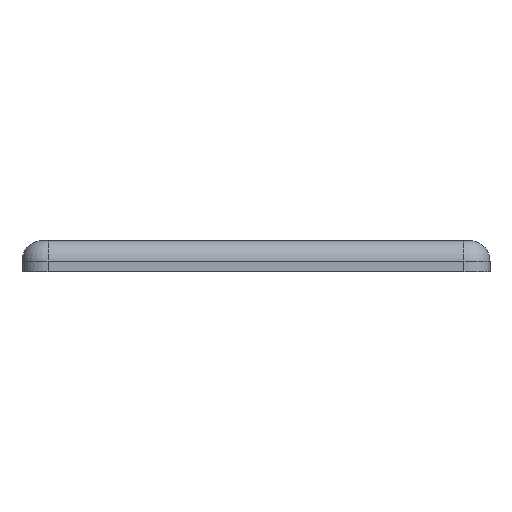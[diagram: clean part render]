
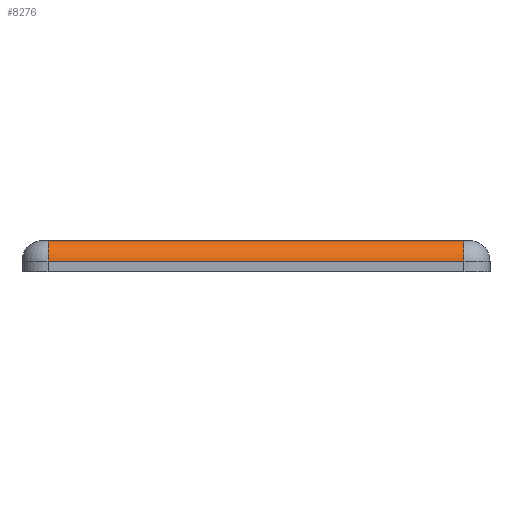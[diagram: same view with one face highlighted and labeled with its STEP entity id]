
A CAD part, front view. The second image highlights one B-rep face of the part: STEP entity #8276.
In plain terms, the highlighted cylindrical face has radius 2 mm (diameter 4 mm), a partial arc.
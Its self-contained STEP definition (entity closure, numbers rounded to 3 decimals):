
#227 = VERTEX_POINT ( 'NONE', #9363 ) ;
#432 = DIRECTION ( 'NONE',  ( 1., 0., 0. ) ) ;
#745 = EDGE_CURVE ( 'NONE', #9428, #1688, #9780, .T. ) ;
#853 = DIRECTION ( 'NONE',  ( -1., 0., 0. ) ) ;
#1024 = CIRCLE ( 'NONE', #1860, 2. ) ;
#1164 = CIRCLE ( 'NONE', #6141, 2. ) ;
#1284 = CYLINDRICAL_SURFACE ( 'NONE', #8115, 2. ) ;
#1617 = DIRECTION ( 'NONE',  ( 0., 1., 0. ) ) ;
#1688 = VERTEX_POINT ( 'NONE', #10228 ) ;
#1860 = AXIS2_PLACEMENT_3D ( 'NONE', #9345, #5387, #10013 ) ;
#1953 = ORIENTED_EDGE ( 'NONE', *, *, #9054, .T. ) ;
#2666 = VERTEX_POINT ( 'NONE', #9537 ) ;
#2995 = ORIENTED_EDGE ( 'NONE', *, *, #6034, .F. ) ;
#4780 = CARTESIAN_POINT ( 'NONE',  ( -20., -65.5, 1. ) ) ;
#5387 = DIRECTION ( 'NONE',  ( 1., 0., 0. ) ) ;
#5793 = EDGE_LOOP ( 'NONE', ( #1953, #9650, #2995, #8953 ) ) ;
#6034 = EDGE_CURVE ( 'NONE', #227, #9428, #1024, .T. ) ;
#6095 = LINE ( 'NONE', #7536, #9645 ) ;
#6141 = AXIS2_PLACEMENT_3D ( 'NONE', #4780, #6323, #1617 ) ;
#6323 = DIRECTION ( 'NONE',  ( 1., 0., 0. ) ) ;
#7216 = CARTESIAN_POINT ( 'NONE',  ( -22.5, -67.5, 1. ) ) ;
#7536 = CARTESIAN_POINT ( 'NONE',  ( 0., -65.5, 3. ) ) ;
#7550 = FACE_OUTER_BOUND ( 'NONE', #5793, .T. ) ;
#7604 = CARTESIAN_POINT ( 'NONE',  ( 0., -65.5, 1. ) ) ;
#7706 = DIRECTION ( 'NONE',  ( 1., 0., 0. ) ) ;
#8115 = AXIS2_PLACEMENT_3D ( 'NONE', #7604, #7706, #8342 ) ;
#8276 = ADVANCED_FACE ( 'NONE', ( #7550 ), #1284, .T. ) ;
#8342 = DIRECTION ( 'NONE',  ( 0., 1., 0. ) ) ;
#8953 = ORIENTED_EDGE ( 'NONE', *, *, #10092, .F. ) ;
#9054 = EDGE_CURVE ( 'NONE', #2666, #1688, #1164, .T. ) ;
#9345 = CARTESIAN_POINT ( 'NONE',  ( 20., -65.5, 1. ) ) ;
#9363 = CARTESIAN_POINT ( 'NONE',  ( 20., -65.5, 3. ) ) ;
#9428 = VERTEX_POINT ( 'NONE', #10056 ) ;
#9537 = CARTESIAN_POINT ( 'NONE',  ( -20., -65.5, 3. ) ) ;
#9645 = VECTOR ( 'NONE', #432, 1000. ) ;
#9650 = ORIENTED_EDGE ( 'NONE', *, *, #745, .F. ) ;
#9780 = LINE ( 'NONE', #7216, #10226 ) ;
#10013 = DIRECTION ( 'NONE',  ( 0., 1., 0. ) ) ;
#10056 = CARTESIAN_POINT ( 'NONE',  ( 20., -67.5, 1. ) ) ;
#10092 = EDGE_CURVE ( 'NONE', #2666, #227, #6095, .T. ) ;
#10226 = VECTOR ( 'NONE', #853, 1000. ) ;
#10228 = CARTESIAN_POINT ( 'NONE',  ( -20., -67.5, 1. ) ) ;
